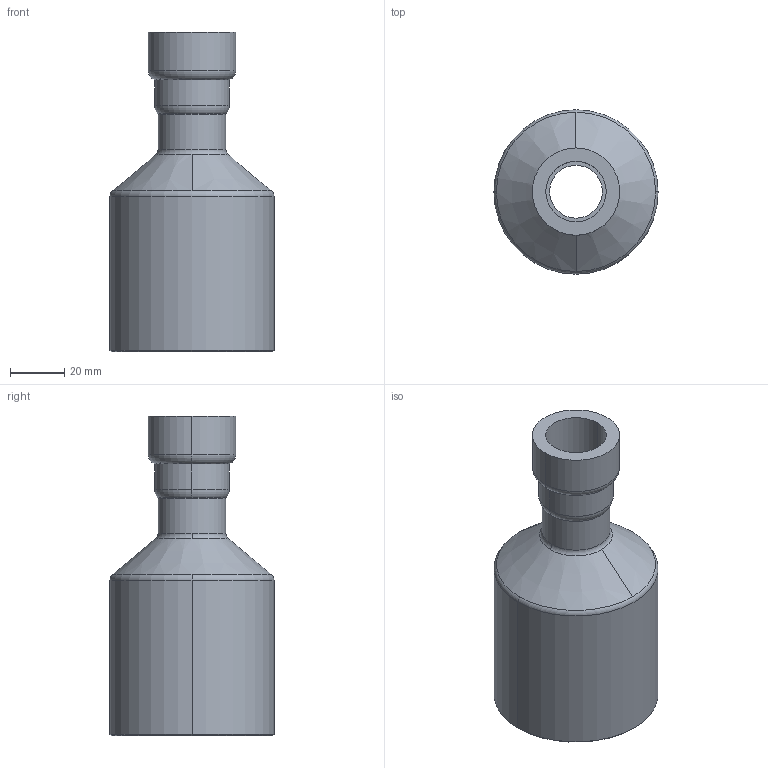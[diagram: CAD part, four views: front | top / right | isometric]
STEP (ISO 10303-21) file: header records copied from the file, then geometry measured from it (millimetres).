
FILE_DESCRIPTION(('Creo Elements/Direct Modeling STEP Export'),'2;1');
FILE_NAME('C9407_1-2_2.stp','2020-06-23T13:56:13',(''),(''),'PTC Creo Elements/Direct Modeling STEP processor for AP214 (Solid Model)','PTC Creo Elements/Direct Modeling 19.0C 15-Aug-2015 (C) Parametric Technology GmbH','');
FILE_SCHEMA(('AUTOMOTIVE_DESIGN { 1 0 10303 214 1 1 1 1 }'));
Length unit declared in the file: millimetre
Products named in the file (2): 9407_1-2_2
Assembly tree (1 placements, depth 2):
  9407_1-2_2
    9407_1-2_2
Bounding box: 60.35 x 60.35 x 117.28 mm (x, y, z)
Volume: 62337.8 mm3; surface area: 33972.9 mm2
Topology: 1 solids, 1 shells, 41 faces, 102 edges, 64 vertices
Faces by surface type: cylinder 14, torus 12, cone 12, plane 3
Entity records: 1095 total; most frequent: ORIENTED_EDGE 204, DIRECTION 180, CARTESIAN_POINT 167, EDGE_CURVE 102, AXIS2_PLACEMENT_3D 77, VERTEX_POINT 64, EDGE_LOOP 44, FACE_OUTER_BOUND 41
